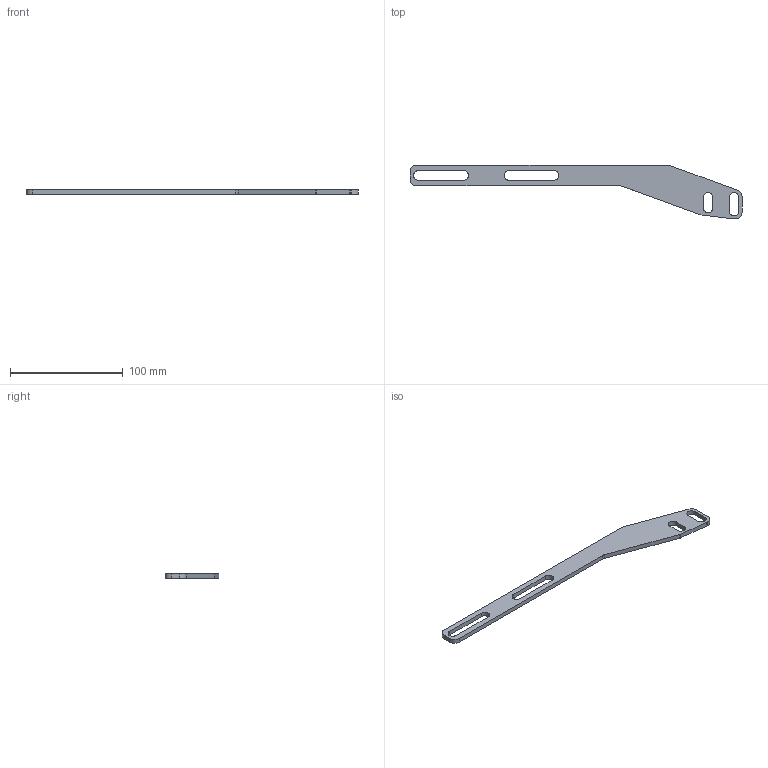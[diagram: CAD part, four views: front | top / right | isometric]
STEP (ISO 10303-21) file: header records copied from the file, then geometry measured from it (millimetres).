
FILE_DESCRIPTION(/* description */ ('BRACKET FOR ROLLER TRANSFER (IDLER UNIT)'),/* implementation_level */ '2;1');
FILE_NAME(/* name */ '500-7111.stp',/* time_stamp */ '2022-09-22T08:56:07+02:00',/* author */ ('ML'),/* organization */ ('CARRYLINE'),/* preprocessor_version */ 'ST-DEVELOPER v19.2',/* originating_system */ 'Autodesk Inventor 2023',/* authorisation */ '');
FILE_SCHEMA (('AUTOMOTIVE_DESIGN { 1 0 10303 214 3 1 1 }'));
Length unit declared in the file: millimetre
Products named in the file (1): 500-7111
Bounding box: 294 x 47.75 x 4 mm (x, y, z)
Volume: 21917.1 mm3; surface area: 14717.4 mm2
Topology: 1 solids, 1 shells, 34 faces, 96 edges, 64 vertices
Faces by surface type: plane 18, cylinder 16
Entity records: 1171 total; most frequent: DIRECTION 198, CARTESIAN_POINT 195, ORIENTED_EDGE 192, EDGE_CURVE 96, AXIS2_PLACEMENT_3D 67, LINE 64, VECTOR 64, VERTEX_POINT 64
